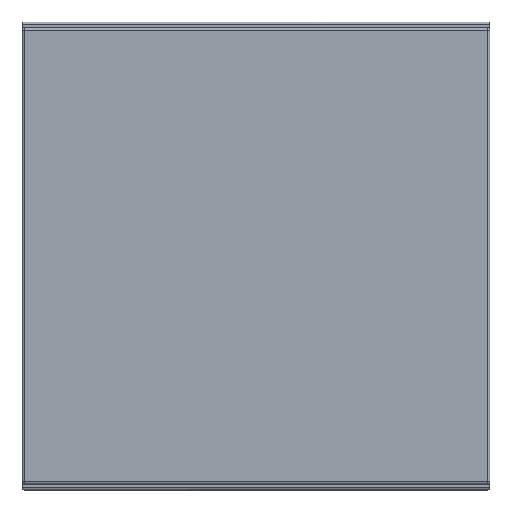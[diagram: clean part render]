
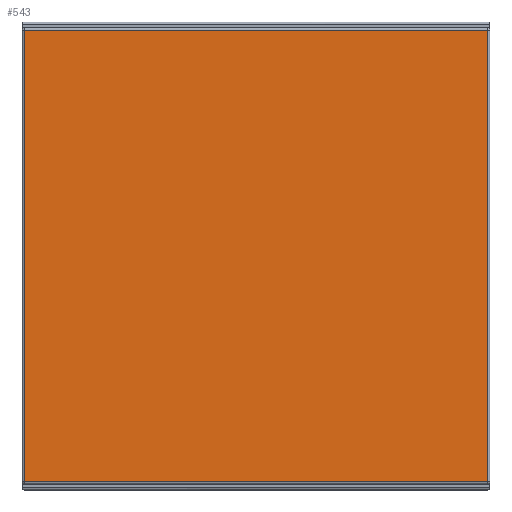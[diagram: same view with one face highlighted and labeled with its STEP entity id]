
A CAD part, front view. The second image highlights one B-rep face of the part: STEP entity #543.
In plain terms, the highlighted planar face has unit normal (0, -1, 0).
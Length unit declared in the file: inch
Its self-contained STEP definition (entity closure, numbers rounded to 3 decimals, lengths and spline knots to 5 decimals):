
#25=PLANE('',#628);
#56=LINE('',#925,#98);
#58=LINE('',#928,#100);
#62=LINE('',#937,#104);
#67=LINE('',#951,#109);
#98=VECTOR('',#763,0.3937);
#100=VECTOR('',#767,0.3937);
#104=VECTOR('',#777,0.3937);
#109=VECTOR('',#792,0.3937);
#169=FACE_OUTER_BOUND('',#207,.T.);
#207=EDGE_LOOP('',(#481,#482,#483,#484));
#259=VERTEX_POINT('',#896);
#262=VERTEX_POINT('',#903);
#267=VERTEX_POINT('',#913);
#270=VERTEX_POINT('',#920);
#330=EDGE_CURVE('',#262,#270,#56,.T.);
#332=EDGE_CURVE('',#270,#267,#58,.T.);
#337=EDGE_CURVE('',#267,#259,#62,.T.);
#344=EDGE_CURVE('',#259,#262,#67,.T.);
#481=ORIENTED_EDGE('',*,*,#330,.F.);
#482=ORIENTED_EDGE('',*,*,#344,.F.);
#483=ORIENTED_EDGE('',*,*,#337,.F.);
#484=ORIENTED_EDGE('',*,*,#332,.F.);
#543=ADVANCED_FACE('',(#169),#25,.T.);
#628=AXIS2_PLACEMENT_3D('',#963,#806,#807);
#763=DIRECTION('',(0.,0.,-1.));
#767=DIRECTION('',(-1.,0.,0.));
#777=DIRECTION('',(0.,0.,1.));
#792=DIRECTION('',(1.,0.,0.));
#806=DIRECTION('center_axis',(0.,-1.,0.));
#807=DIRECTION('ref_axis',(0.,0.,1.));
#896=CARTESIAN_POINT('',(22.25,14.125,20.77514));
#903=CARTESIAN_POINT('',(42.05,14.125,20.77514));
#913=CARTESIAN_POINT('',(22.25,14.125,1.47514));
#920=CARTESIAN_POINT('',(42.05,14.125,1.47514));
#925=CARTESIAN_POINT('',(42.05,14.125,6.25014));
#928=CARTESIAN_POINT('',(42.15,14.125,1.47514));
#937=CARTESIAN_POINT('',(22.25,14.125,6.25014));
#951=CARTESIAN_POINT('',(42.15,14.125,20.77514));
#963=CARTESIAN_POINT('Origin',(42.15,14.125,1.37514));
